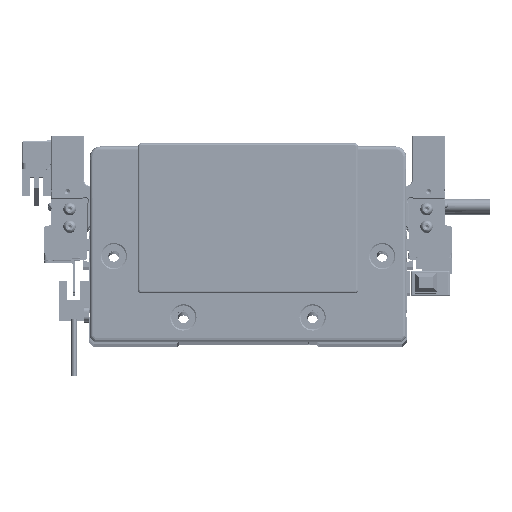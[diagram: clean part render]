
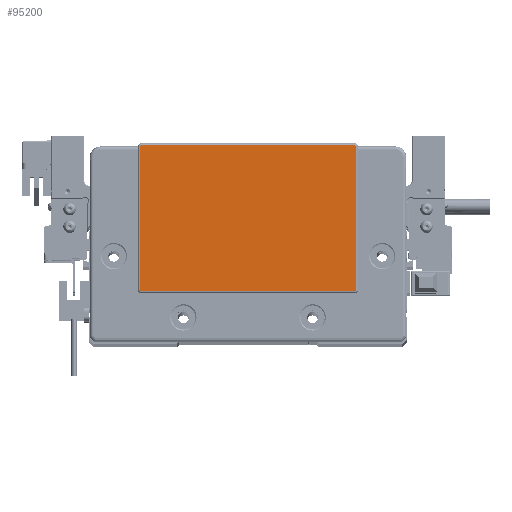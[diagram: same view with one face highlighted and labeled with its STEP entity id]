
A CAD part, top view. The second image highlights one B-rep face of the part: STEP entity #95200.
In plain terms, the highlighted planar face has unit normal (0, 0, 1) as drawn and (0, 0, -1) by its records, which use the part's own axes.
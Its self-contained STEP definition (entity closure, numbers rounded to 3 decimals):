
#2335 = CARTESIAN_POINT ( 'NONE',  ( 48.75, 44.3, -2. ) ) ;
#2558 = LINE ( 'NONE', #26171, #53488 ) ;
#2730 = VERTEX_POINT ( 'NONE', #68050 ) ;
#2801 = CARTESIAN_POINT ( 'NONE',  ( 48.75, -21.8, -2. ) ) ;
#3944 = CIRCLE ( 'NONE', #87356, 0.5 ) ;
#4477 = CIRCLE ( 'NONE', #89755, 0.5 ) ;
#6379 = CARTESIAN_POINT ( 'NONE',  ( -48.75, -22.3, -2. ) ) ;
#6596 = DIRECTION ( 'NONE',  ( 0., -1., 0. ) ) ;
#8575 = DIRECTION ( 'NONE',  ( 0., 0., -1. ) ) ;
#10978 = DIRECTION ( 'NONE',  ( 0., 0., -1. ) ) ;
#12749 = CARTESIAN_POINT ( 'NONE',  ( 49.25, -21.8, -2. ) ) ;
#13922 = VERTEX_POINT ( 'NONE', #20569 ) ;
#14427 = EDGE_CURVE ( 'NONE', #87404, #33321, #76757, .T. ) ;
#16448 = CIRCLE ( 'NONE', #24648, 0.5 ) ;
#17991 = VERTEX_POINT ( 'NONE', #6379 ) ;
#19543 = EDGE_CURVE ( 'NONE', #2730, #17991, #2558, .T. ) ;
#20569 = CARTESIAN_POINT ( 'NONE',  ( -49.25, -21.8, -2. ) ) ;
#22234 = LINE ( 'NONE', #100099, #43762 ) ;
#23475 = AXIS2_PLACEMENT_3D ( 'NONE', #38262, #46463, #60809 ) ;
#24648 = AXIS2_PLACEMENT_3D ( 'NONE', #78760, #8575, #64393 ) ;
#26171 = CARTESIAN_POINT ( 'NONE',  ( -48.75, -22.3, -2. ) ) ;
#29585 = FACE_OUTER_BOUND ( 'NONE', #98927, .T. ) ;
#31828 = VERTEX_POINT ( 'NONE', #2335 ) ;
#33321 = VERTEX_POINT ( 'NONE', #43808 ) ;
#33419 = CARTESIAN_POINT ( 'NONE',  ( -48.75, 44.3, -2. ) ) ;
#35243 = VERTEX_POINT ( 'NONE', #33419 ) ;
#35806 = AXIS2_PLACEMENT_3D ( 'NONE', #2801, #10978, #80672 ) ;
#36045 = CARTESIAN_POINT ( 'NONE',  ( 49.25, 43.8, -2. ) ) ;
#36690 = ORIENTED_EDGE ( 'NONE', *, *, #88939, .T. ) ;
#38262 = CARTESIAN_POINT ( 'NONE',  ( 0., 0., -2. ) ) ;
#43762 = VECTOR ( 'NONE', #76486, 1000. ) ;
#43808 = CARTESIAN_POINT ( 'NONE',  ( 49.25, -21.8, -2. ) ) ;
#44780 = CARTESIAN_POINT ( 'NONE',  ( -48.75, 43.8, -2. ) ) ;
#45447 = PLANE ( 'NONE',  #23475 ) ;
#45707 = CARTESIAN_POINT ( 'NONE',  ( -49.25, 43.8, -2. ) ) ;
#46463 = DIRECTION ( 'NONE',  ( 0., 0., -1. ) ) ;
#48428 = DIRECTION ( 'NONE',  ( 0., 0., -1. ) ) ;
#49828 = VECTOR ( 'NONE', #6596, 1000. ) ;
#50261 = ORIENTED_EDGE ( 'NONE', *, *, #53636, .T. ) ;
#50672 = CARTESIAN_POINT ( 'NONE',  ( -49.25, 43.8, -2. ) ) ;
#51408 = VERTEX_POINT ( 'NONE', #50672 ) ;
#52426 = DIRECTION ( 'NONE',  ( 0., 0., -1. ) ) ;
#53032 = VECTOR ( 'NONE', #53867, 1000. ) ;
#53488 = VECTOR ( 'NONE', #55875, 1000. ) ;
#53636 = EDGE_CURVE ( 'NONE', #13922, #51408, #92807, .T. ) ;
#53867 = DIRECTION ( 'NONE',  ( 0., 1., 0. ) ) ;
#55875 = DIRECTION ( 'NONE',  ( -1., 0., 0. ) ) ;
#59102 = DIRECTION ( 'NONE',  ( -1., 0., 0. ) ) ;
#60809 = DIRECTION ( 'NONE',  ( -1., 0., 0. ) ) ;
#64393 = DIRECTION ( 'NONE',  ( -1., 0., 0. ) ) ;
#67551 = ORIENTED_EDGE ( 'NONE', *, *, #14427, .T. ) ;
#68050 = CARTESIAN_POINT ( 'NONE',  ( 48.75, -22.3, -2. ) ) ;
#69260 = ORIENTED_EDGE ( 'NONE', *, *, #19543, .T. ) ;
#76486 = DIRECTION ( 'NONE',  ( 1., 0., 0. ) ) ;
#76757 = LINE ( 'NONE', #12749, #49828 ) ;
#78760 = CARTESIAN_POINT ( 'NONE',  ( 48.75, 43.8, -2. ) ) ;
#79156 = CARTESIAN_POINT ( 'NONE',  ( -48.75, -21.8, -2. ) ) ;
#79672 = DIRECTION ( 'NONE',  ( -1., 0., 0. ) ) ;
#80507 = EDGE_CURVE ( 'NONE', #33321, #2730, #81558, .T. ) ;
#80613 = EDGE_CURVE ( 'NONE', #51408, #35243, #4477, .T. ) ;
#80672 = DIRECTION ( 'NONE',  ( -1., 0., 0. ) ) ;
#80728 = EDGE_CURVE ( 'NONE', #35243, #31828, #22234, .T. ) ;
#80787 = ORIENTED_EDGE ( 'NONE', *, *, #80613, .T. ) ;
#81558 = CIRCLE ( 'NONE', #35806, 0.5 ) ;
#81586 = ORIENTED_EDGE ( 'NONE', *, *, #80728, .T. ) ;
#82485 = ORIENTED_EDGE ( 'NONE', *, *, #80507, .T. ) ;
#83760 = EDGE_CURVE ( 'NONE', #31828, #87404, #16448, .T. ) ;
#87356 = AXIS2_PLACEMENT_3D ( 'NONE', #79156, #48428, #79672 ) ;
#87404 = VERTEX_POINT ( 'NONE', #36045 ) ;
#88939 = EDGE_CURVE ( 'NONE', #17991, #13922, #3944, .T. ) ;
#89755 = AXIS2_PLACEMENT_3D ( 'NONE', #44780, #52426, #59102 ) ;
#92807 = LINE ( 'NONE', #45707, #53032 ) ;
#95200 = ADVANCED_FACE ( 'NONE', ( #29585 ), #45447, .T. ) ;
#98048 = ORIENTED_EDGE ( 'NONE', *, *, #83760, .T. ) ;
#98927 = EDGE_LOOP ( 'NONE', ( #67551, #82485, #69260, #36690, #50261, #80787, #81586, #98048 ) ) ;
#100099 = CARTESIAN_POINT ( 'NONE',  ( 48.75, 44.3, -2. ) ) ;
